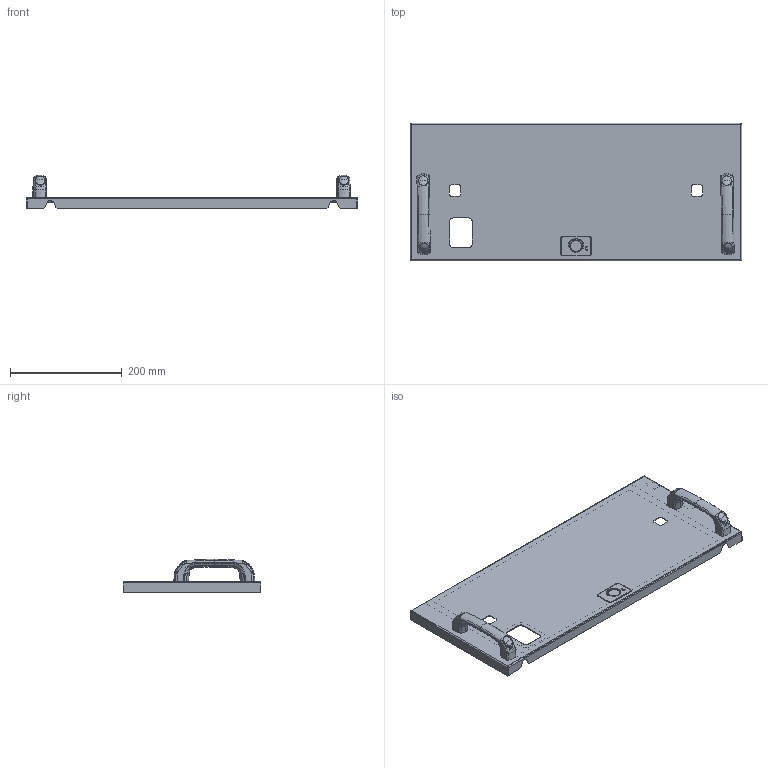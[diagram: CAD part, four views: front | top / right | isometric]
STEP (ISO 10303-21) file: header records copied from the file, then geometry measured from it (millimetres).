
FILE_DESCRIPTION(('CAx-IF Rec.Pracs.---Model Styling and Organization---1.2---2011-12-15','CAx-IF Rec.Pracs.---Geometric and Assembly Validation Properties---4.1---2014-06-16','CAx-IF Rec.Pracs.---PMI Polyline Presentation---2.0---2013-05-24'),'2;1');
FILE_NAME('R5M2W5M1BF-L.stp','2021-05-05T12:27:52+03:00',(''),(''),'STEP Interface 4.4 by CT CoreTechnologie','3D_Evolution4.4 by CT CoreTechnologie','');
FILE_SCHEMA(('AUTOMOTIVE_DESIGN { 1 0 10303 214 1 1 1 1 }'));
Length unit declared in the file: millimetre
Products named in the file (14): R5M2W5M1BF-L; 4.444.002; PR.DT477.120.02-poprawa; PR.DT477.120.01; AC00C148_AC00C148; Ì5-GOST 5915-70 (DIN 934)_straight; RB.1942.00.00.0_-02; PF 3.5x7 RAMmcc 2.0_00; RB.1166.00.05.0; PF 7x14 RAMmcc 2.0_51; Ì6õ12-A5100231_straight; RB.1166.00.04.0_-00; RB.1166.00.02.0_¢ à 1; RB.1942.00.01.0_-02
Assembly tree (18 placements, depth 3):
  R5M2W5M1BF-L
    4.444.002  x2
      PR.DT477.120.02-poprawa
      PR.DT477.120.01
    AC00C148_AC00C148  x2
    Ì5-GOST 5915-70 (DIN 934)_straight
    RB.1942.00.00.0_-02
      PF 3.5x7 RAMmcc 2.0_00
      RB.1166.00.05.0  x3
      PF 7x14 RAMmcc 2.0_51
      Ì6õ12-A5100231_straight
      RB.1166.00.04.0_-00
      RB.1166.00.02.0_¢ à 1
      RB.1942.00.01.0_-02
Bounding box: 594 x 247 x 60 mm (x, y, z)
Surface area: 462098.7 mm2 (no closed solid volume)
Topology: 0 solids, 21 shells, 1873 faces, 4689 edges, 2843 vertices
Faces by surface type: bspline 971, plane 579, cylinder 323
Entity records: 40150 total; most frequent: CARTESIAN_POINT 18200, ORIENTED_EDGE 4690, DIRECTION 4239, EDGE_CURVE 2345, AXIS2_PLACEMENT_3D 1599, VERTEX_POINT 1441, CIRCLE 1111, VECTOR 1041
